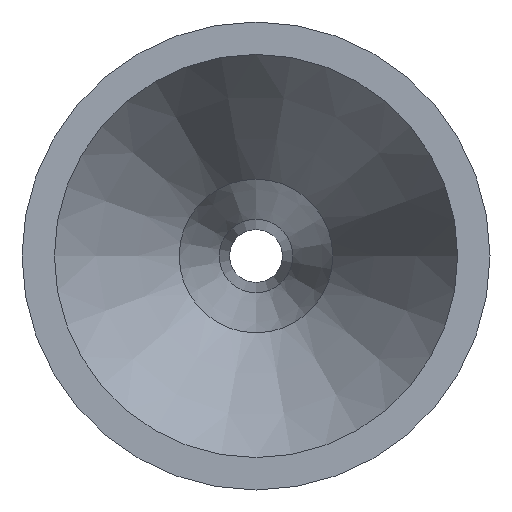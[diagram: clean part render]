
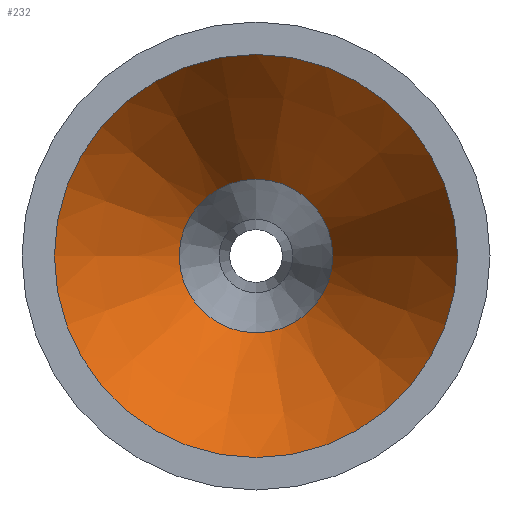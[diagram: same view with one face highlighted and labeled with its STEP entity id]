
A CAD part, left-side view. The second image highlights one B-rep face of the part: STEP entity #232.
In plain terms, the highlighted conical face has half-angle 29.887 degrees and reference radius 8.4 mm.
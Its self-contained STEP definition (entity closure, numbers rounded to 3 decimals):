
#1 = CIRCLE ( 'NONE', #38, 8.4 ) ;
#2 = DIRECTION ( 'NONE',  ( -1., 0., 0. ) ) ;
#5 = AXIS2_PLACEMENT_3D ( 'NONE', #189, #268, #243 ) ;
#27 = EDGE_LOOP ( 'NONE', ( #179 ) ) ;
#29 = DIRECTION ( 'NONE',  ( -1., 0., 0. ) ) ;
#35 = CIRCLE ( 'NONE', #5, 3.2 ) ;
#38 = AXIS2_PLACEMENT_3D ( 'NONE', #239, #2, #258 ) ;
#51 = CARTESIAN_POINT ( 'NONE',  ( 5.94, 0., 0. ) ) ;
#52 = ORIENTED_EDGE ( 'NONE', *, *, #150, .F. ) ;
#56 = EDGE_CURVE ( 'NONE', #151, #151, #1, .T. ) ;
#77 = FACE_BOUND ( 'NONE', #276, .T. ) ;
#103 = DIRECTION ( 'NONE',  ( 0., -1., 0. ) ) ;
#127 = VERTEX_POINT ( 'NONE', #195 ) ;
#150 = EDGE_CURVE ( 'NONE', #127, #127, #35, .T. ) ;
#151 = VERTEX_POINT ( 'NONE', #213 ) ;
#179 = ORIENTED_EDGE ( 'NONE', *, *, #56, .T. ) ;
#189 = CARTESIAN_POINT ( 'NONE',  ( 14.988, 0., 0. ) ) ;
#195 = CARTESIAN_POINT ( 'NONE',  ( 14.988, -3.2, 0. ) ) ;
#211 = CONICAL_SURFACE ( 'NONE', #264, 8.4, 0.522 ) ;
#213 = CARTESIAN_POINT ( 'NONE',  ( 5.94, 0., 8.4 ) ) ;
#232 = ADVANCED_FACE ( 'NONE', ( #77, #245 ), #211, .F. ) ;
#239 = CARTESIAN_POINT ( 'NONE',  ( 5.94, 0., 0. ) ) ;
#243 = DIRECTION ( 'NONE',  ( 0., -1., 0. ) ) ;
#245 = FACE_OUTER_BOUND ( 'NONE', #27, .T. ) ;
#258 = DIRECTION ( 'NONE',  ( 0., 0., 1. ) ) ;
#264 = AXIS2_PLACEMENT_3D ( 'NONE', #51, #29, #103 ) ;
#268 = DIRECTION ( 'NONE',  ( -1., 0., 0. ) ) ;
#276 = EDGE_LOOP ( 'NONE', ( #52 ) ) ;
